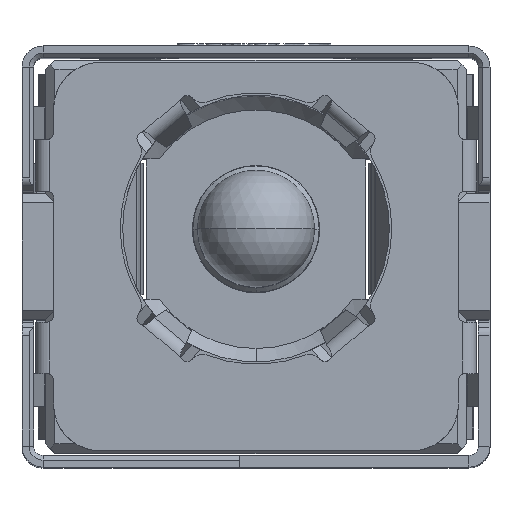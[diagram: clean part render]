
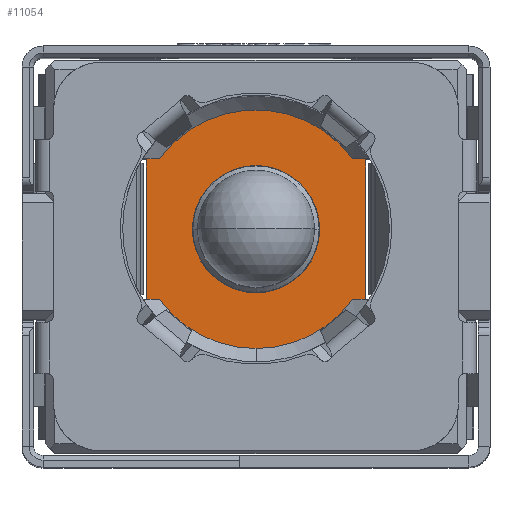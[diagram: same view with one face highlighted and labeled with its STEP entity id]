
A CAD part, top view. The second image highlights one B-rep face of the part: STEP entity #11054.
In plain terms, the highlighted planar face has unit normal (0, 0, 1).
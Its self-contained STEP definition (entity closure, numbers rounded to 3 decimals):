
#197 = LINE ( 'NONE', #33614, #27934 ) ;
#224 = CARTESIAN_POINT ( 'NONE',  ( -2.35, -1.5, 5.7 ) ) ;
#1022 = DIRECTION ( 'NONE',  ( 0., 0., 1. ) ) ;
#1779 = EDGE_CURVE ( 'NONE', #26841, #37449, #7907, .T. ) ;
#2997 = VERTEX_POINT ( 'NONE', #4225 ) ;
#3303 = DIRECTION ( 'NONE',  ( 0., 0., -1. ) ) ;
#3428 = AXIS2_PLACEMENT_3D ( 'NONE', #22427, #34434, #3617 ) ;
#3560 = DIRECTION ( 'NONE',  ( -1., 0., 0. ) ) ;
#3617 = DIRECTION ( 'NONE',  ( 0., 1., 0. ) ) ;
#4072 = VERTEX_POINT ( 'NONE', #4816 ) ;
#4181 = DIRECTION ( 'NONE',  ( 1., 0., 0. ) ) ;
#4225 = CARTESIAN_POINT ( 'NONE',  ( 2.35, -1.5, 5.7 ) ) ;
#4357 = VECTOR ( 'NONE', #11562, 1000. ) ;
#4432 = CARTESIAN_POINT ( 'NONE',  ( 0., 0., 5.7 ) ) ;
#4459 = CARTESIAN_POINT ( 'NONE',  ( 0., 0., 5.7 ) ) ;
#4634 = ORIENTED_EDGE ( 'NONE', *, *, #20064, .F. ) ;
#4816 = CARTESIAN_POINT ( 'NONE',  ( -2.062, 1.5, 5.7 ) ) ;
#5341 = LINE ( 'NONE', #14554, #4357 ) ;
#5409 = VECTOR ( 'NONE', #3560, 1000. ) ;
#6116 = EDGE_CURVE ( 'NONE', #7870, #34704, #16024, .T. ) ;
#6765 = CARTESIAN_POINT ( 'NONE',  ( 0., -2.55, 5.7 ) ) ;
#7051 = ORIENTED_EDGE ( 'NONE', *, *, #14360, .T. ) ;
#7063 = DIRECTION ( 'NONE',  ( 0., 0., -1. ) ) ;
#7870 = VERTEX_POINT ( 'NONE', #10199 ) ;
#7907 = CIRCLE ( 'NONE', #3428, 1.36 ) ;
#8659 = EDGE_CURVE ( 'NONE', #7870, #2997, #19389, .T. ) ;
#8831 = CIRCLE ( 'NONE', #29900, 1.36 ) ;
#8963 = CARTESIAN_POINT ( 'NONE',  ( 0., -1.36, 5.7 ) ) ;
#9023 = AXIS2_PLACEMENT_3D ( 'NONE', #26262, #26855, #23847 ) ;
#10199 = CARTESIAN_POINT ( 'NONE',  ( 2.062, -1.5, 5.7 ) ) ;
#10954 = EDGE_CURVE ( 'NONE', #4072, #35251, #27921, .T. ) ;
#11054 = ADVANCED_FACE ( 'NONE', ( #13428, #28644 ), #34635, .T. ) ;
#11084 = VERTEX_POINT ( 'NONE', #16616 ) ;
#11562 = DIRECTION ( 'NONE',  ( 0., 1., 0. ) ) ;
#11729 = CIRCLE ( 'NONE', #21300, 2.55 ) ;
#11841 = CARTESIAN_POINT ( 'NONE',  ( 0., 0., 5.7 ) ) ;
#12481 = CARTESIAN_POINT ( 'NONE',  ( 0., 1.36, 5.7 ) ) ;
#12833 = DIRECTION ( 'NONE',  ( 1., 0., 0. ) ) ;
#13428 = FACE_OUTER_BOUND ( 'NONE', #33256, .T. ) ;
#14360 = EDGE_CURVE ( 'NONE', #37449, #26841, #8831, .T. ) ;
#14366 = EDGE_CURVE ( 'NONE', #25138, #35251, #24323, .T. ) ;
#14390 = ORIENTED_EDGE ( 'NONE', *, *, #38889, .F. ) ;
#14554 = CARTESIAN_POINT ( 'NONE',  ( -2.35, -1.5, 5.7 ) ) ;
#15106 = ORIENTED_EDGE ( 'NONE', *, *, #24561, .F. ) ;
#16024 = CIRCLE ( 'NONE', #9023, 2.55 ) ;
#16158 = ORIENTED_EDGE ( 'NONE', *, *, #10954, .F. ) ;
#16581 = LINE ( 'NONE', #19390, #17019 ) ;
#16616 = CARTESIAN_POINT ( 'NONE',  ( -2.062, -1.5, 5.7 ) ) ;
#17019 = VECTOR ( 'NONE', #28798, 1000. ) ;
#17913 = VERTEX_POINT ( 'NONE', #224 ) ;
#18515 = DIRECTION ( 'NONE',  ( -1., 0., 0. ) ) ;
#19389 = LINE ( 'NONE', #31590, #39335 ) ;
#19390 = CARTESIAN_POINT ( 'NONE',  ( -2.35, -1.5, 5.7 ) ) ;
#19603 = AXIS2_PLACEMENT_3D ( 'NONE', #4432, #1022, #12833 ) ;
#20064 = EDGE_CURVE ( 'NONE', #34704, #11084, #11729, .T. ) ;
#21300 = AXIS2_PLACEMENT_3D ( 'NONE', #4459, #7063, #37464 ) ;
#21317 = CARTESIAN_POINT ( 'NONE',  ( 2.35, 1.5, 5.7 ) ) ;
#21509 = DIRECTION ( 'NONE',  ( 0., -1., 0. ) ) ;
#21883 = EDGE_CURVE ( 'NONE', #4072, #23369, #28572, .T. ) ;
#22427 = CARTESIAN_POINT ( 'NONE',  ( 0., 0., 5.7 ) ) ;
#23123 = ORIENTED_EDGE ( 'NONE', *, *, #6116, .F. ) ;
#23369 = VERTEX_POINT ( 'NONE', #25393 ) ;
#23502 = CARTESIAN_POINT ( 'NONE',  ( 2.062, 1.5, 5.7 ) ) ;
#23847 = DIRECTION ( 'NONE',  ( 0.809, -0.588, 0. ) ) ;
#24323 = LINE ( 'NONE', #21317, #39489 ) ;
#24561 = EDGE_CURVE ( 'NONE', #25138, #2997, #197, .T. ) ;
#25138 = VERTEX_POINT ( 'NONE', #28120 ) ;
#25393 = CARTESIAN_POINT ( 'NONE',  ( -2.35, 1.5, 5.7 ) ) ;
#26262 = CARTESIAN_POINT ( 'NONE',  ( 0., 0., 5.7 ) ) ;
#26841 = VERTEX_POINT ( 'NONE', #12481 ) ;
#26855 = DIRECTION ( 'NONE',  ( 0., 0., -1. ) ) ;
#27255 = DIRECTION ( 'NONE',  ( 0., 0., -1. ) ) ;
#27614 = ORIENTED_EDGE ( 'NONE', *, *, #21883, .T. ) ;
#27719 = CARTESIAN_POINT ( 'NONE',  ( 0., 0., 5.7 ) ) ;
#27906 = ORIENTED_EDGE ( 'NONE', *, *, #1779, .T. ) ;
#27921 = CIRCLE ( 'NONE', #38755, 2.55 ) ;
#27934 = VECTOR ( 'NONE', #36216, 1000. ) ;
#28120 = CARTESIAN_POINT ( 'NONE',  ( 2.35, 1.5, 5.7 ) ) ;
#28572 = LINE ( 'NONE', #37969, #5409 ) ;
#28644 = FACE_BOUND ( 'NONE', #33268, .T. ) ;
#28798 = DIRECTION ( 'NONE',  ( 1., 0., 0. ) ) ;
#29900 = AXIS2_PLACEMENT_3D ( 'NONE', #27719, #3303, #21509 ) ;
#30066 = EDGE_CURVE ( 'NONE', #17913, #11084, #16581, .T. ) ;
#30356 = ORIENTED_EDGE ( 'NONE', *, *, #30066, .T. ) ;
#31590 = CARTESIAN_POINT ( 'NONE',  ( 2.062, -1.5, 5.7 ) ) ;
#32004 = ORIENTED_EDGE ( 'NONE', *, *, #14366, .T. ) ;
#33053 = DIRECTION ( 'NONE',  ( -0.809, 0.588, 0. ) ) ;
#33256 = EDGE_LOOP ( 'NONE', ( #27614, #14390, #30356, #4634, #23123, #39505, #15106, #32004, #16158 ) ) ;
#33268 = EDGE_LOOP ( 'NONE', ( #7051, #27906 ) ) ;
#33614 = CARTESIAN_POINT ( 'NONE',  ( 2.35, 1.5, 5.7 ) ) ;
#34434 = DIRECTION ( 'NONE',  ( 0., 0., -1. ) ) ;
#34635 = PLANE ( 'NONE',  #19603 ) ;
#34704 = VERTEX_POINT ( 'NONE', #6765 ) ;
#35251 = VERTEX_POINT ( 'NONE', #23502 ) ;
#36216 = DIRECTION ( 'NONE',  ( 0., -1., 0. ) ) ;
#37449 = VERTEX_POINT ( 'NONE', #8963 ) ;
#37464 = DIRECTION ( 'NONE',  ( 0.809, -0.588, 0. ) ) ;
#37969 = CARTESIAN_POINT ( 'NONE',  ( -2.062, 1.5, 5.7 ) ) ;
#38755 = AXIS2_PLACEMENT_3D ( 'NONE', #11841, #27255, #33053 ) ;
#38889 = EDGE_CURVE ( 'NONE', #17913, #23369, #5341, .T. ) ;
#39335 = VECTOR ( 'NONE', #4181, 1000. ) ;
#39489 = VECTOR ( 'NONE', #18515, 1000. ) ;
#39505 = ORIENTED_EDGE ( 'NONE', *, *, #8659, .T. ) ;
